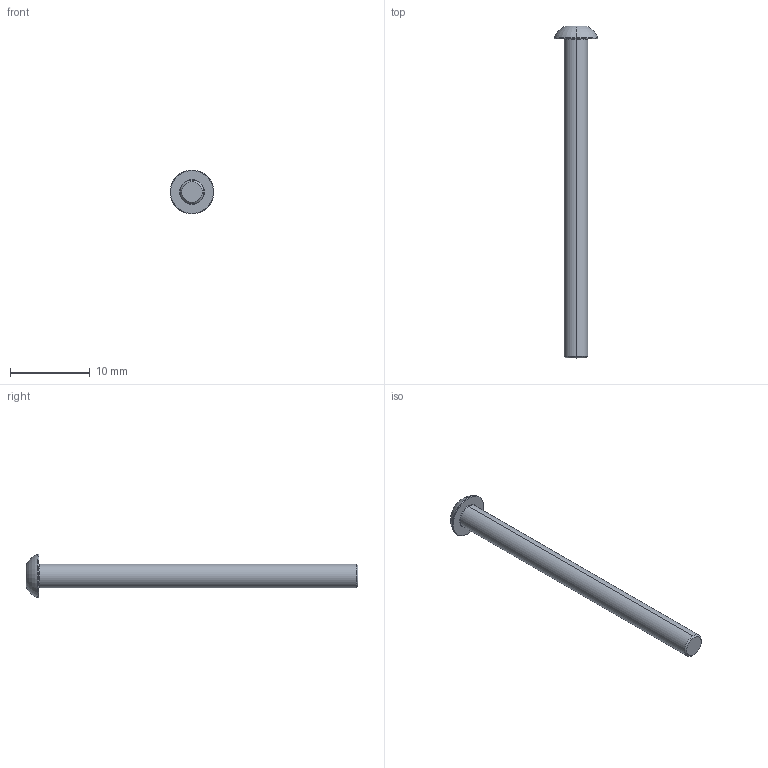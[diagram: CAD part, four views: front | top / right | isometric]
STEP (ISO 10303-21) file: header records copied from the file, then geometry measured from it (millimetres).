
FILE_DESCRIPTION (( 'STEP AP203' ), '1' );
FILE_NAME ('LGDD-304-M3x40.STEP', '2026-08-08T02:36:30', ( '' ), ( '' ), 'SwSTEP 2.0', 'SolidWorks 2020', '' );
FILE_SCHEMA (( 'CONFIG_CONTROL_DESIGN' ));
Length unit declared in the file: millimetre
Products named in the file (1): LGDD-304-M3x40
Bounding box: 5.5 x 41.6 x 5.5 mm (x, y, z)
Volume: 304.2 mm3; surface area: 444.1 mm2
Topology: 1 solids, 1 shells, 31 faces, 59 edges, 32 vertices
Faces by surface type: plane 10, cone 9, torus 8, cylinder 4
Entity records: 876 total; most frequent: CARTESIAN_POINT 166, DIRECTION 149, ORIENTED_EDGE 118, AXIS2_PLACEMENT_3D 65, EDGE_CURVE 59, CIRCLE 33, EDGE_LOOP 33, VERTEX_POINT 32
